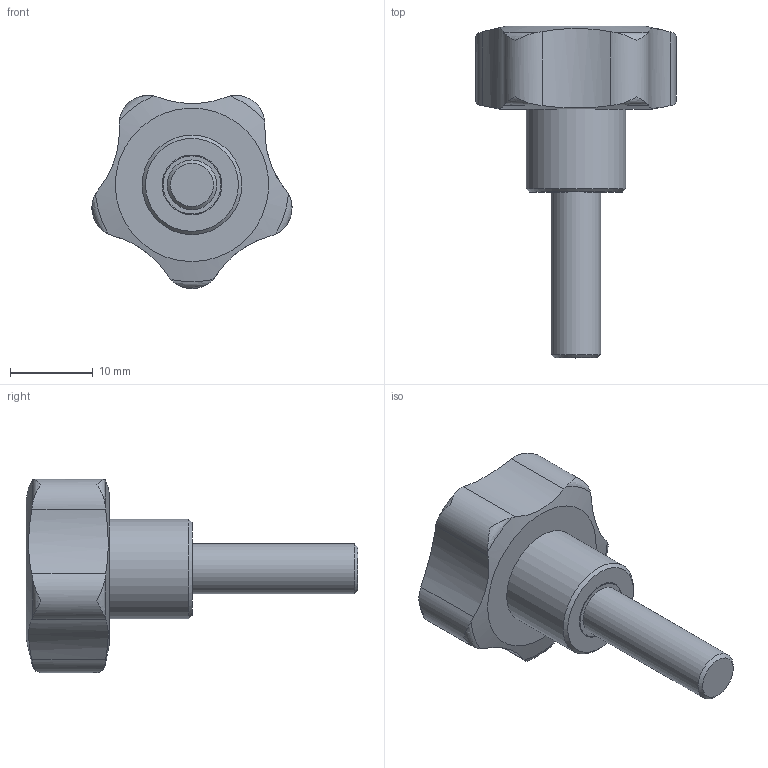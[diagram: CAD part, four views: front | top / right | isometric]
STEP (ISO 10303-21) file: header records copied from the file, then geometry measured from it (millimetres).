
FILE_DESCRIPTION( ( 'STEP AP203' ), '1' );
FILE_NAME( 'C:/Temp/Ganter_Step_05_03_2020/data/2_2/gn_5337_4/gn_5337_4_s/Star knob GN 5337.4-25-M6-20.stp', '2020-03-05T12:09:40', ( 'License CC BY-ND 4.0' ), ( 'CADENAS' ), ' ', 'PARTsolutions', ' ' );
FILE_SCHEMA( ( 'CONFIG_CONTROL_DESIGN' ) );
Length unit declared in the file: millimetre
Products named in the file (1): _Star knob GN 5337.4-25-M6-20
Bounding box: 24.11 x 40 x 23.28 mm (x, y, z)
Volume: 5380.2 mm3; surface area: 2200.9 mm2
Topology: 1 solids, 1 shells, 34 faces, 95 edges, 66 vertices
Faces by surface type: cylinder 14, torus 10, plane 5, cone 3, bspline 1, sphere 1
Full cylindrical faces by diameter (mm): 6 x1, 7 x1, 7.2 x1, 12 x1
Entity records: 1417 total; most frequent: CARTESIAN_POINT 629, ORIENTED_EDGE 164, DIRECTION 122, EDGE_CURVE 82, VERTEX_POINT 63, AXIS2_PLACEMENT_3D 56, B_SPLINE_CURVE_WITH_KNOTS 50, EDGE_LOOP 46
